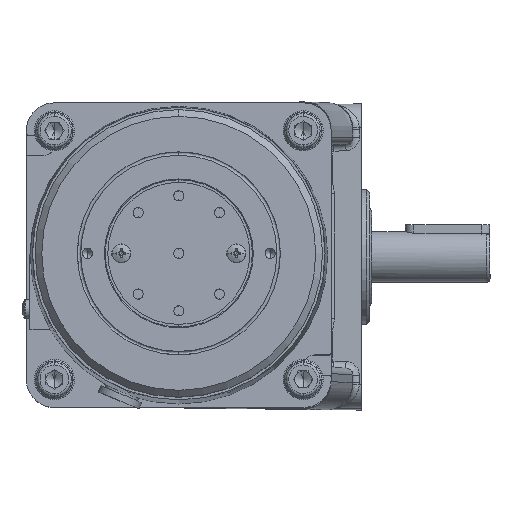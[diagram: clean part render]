
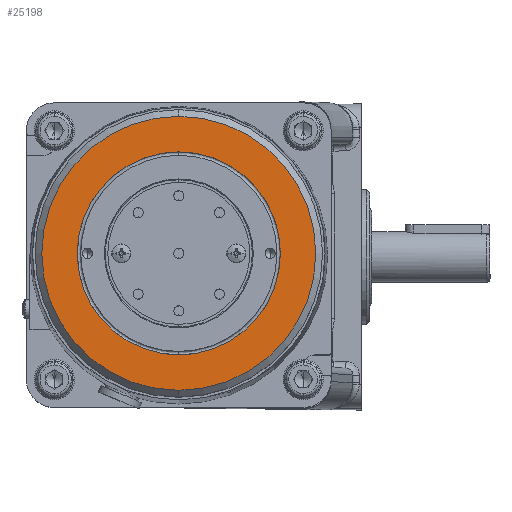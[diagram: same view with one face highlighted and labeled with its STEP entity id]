
A CAD part, front view. The second image highlights one B-rep face of the part: STEP entity #25198.
In plain terms, the highlighted planar face has unit normal (0, -1, 0.005) as drawn and (-1, 0, 0) by its records, which use the part's own axes.
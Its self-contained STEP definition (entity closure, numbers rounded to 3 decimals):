
#588 = EDGE_CURVE ( 'NONE', #71042, #40257, #25965, .T. ) ;
#843 = DIRECTION ( 'NONE',  ( 1., 0., 0. ) ) ;
#1355 = DIRECTION ( 'NONE',  ( 0., 0., -1. ) ) ;
#1457 = CIRCLE ( 'NONE', #40722, 30. ) ;
#1803 = EDGE_LOOP ( 'NONE', ( #60729, #74217 ) ) ;
#8358 = DIRECTION ( 'NONE',  ( 1., 0., 0. ) ) ;
#9166 = DIRECTION ( 'NONE',  ( 1., 0., 0. ) ) ;
#9543 = PLANE ( 'NONE',  #64972 ) ;
#10225 = CARTESIAN_POINT ( 'NONE',  ( -103.202, 12.73, 273.5 ) ) ;
#10834 = EDGE_CURVE ( 'NONE', #36249, #48325, #13071, .T. ) ;
#11348 = ORIENTED_EDGE ( 'NONE', *, *, #25797, .F. ) ;
#13071 = CIRCLE ( 'NONE', #30817, 30. ) ;
#22285 = FACE_BOUND ( 'NONE', #1803, .T. ) ;
#22743 = CARTESIAN_POINT ( 'NONE',  ( -103.202, 12.73, 213.5 ) ) ;
#22921 = CARTESIAN_POINT ( 'NONE',  ( -103.202, 12.73, 213.5 ) ) ;
#23580 = FACE_OUTER_BOUND ( 'NONE', #73853, .T. ) ;
#25198 = ADVANCED_FACE ( 'NONE', ( #22285, #23580 ), #9543, .T. ) ;
#25797 = EDGE_CURVE ( 'NONE', #40257, #71042, #37658, .T. ) ;
#25965 = CIRCLE ( 'NONE', #64632, 40.5 ) ;
#26169 = AXIS2_PLACEMENT_3D ( 'NONE', #48886, #9166, #55569 ) ;
#30817 = AXIS2_PLACEMENT_3D ( 'NONE', #48071, #8358, #54756 ) ;
#36169 = DIRECTION ( 'NONE',  ( 0., 0., 1. ) ) ;
#36249 = VERTEX_POINT ( 'NONE', #10225 ) ;
#37658 = CIRCLE ( 'NONE', #26169, 40.5 ) ;
#40257 = VERTEX_POINT ( 'NONE', #57498 ) ;
#40430 = CARTESIAN_POINT ( 'NONE',  ( -103.202, 12.73, 243.5 ) ) ;
#40722 = AXIS2_PLACEMENT_3D ( 'NONE', #40430, #843, #47127 ) ;
#40962 = DIRECTION ( 'NONE',  ( 1., 0., 0. ) ) ;
#47127 = DIRECTION ( 'NONE',  ( 0., 0., 1. ) ) ;
#48071 = CARTESIAN_POINT ( 'NONE',  ( -103.202, 12.73, 243.5 ) ) ;
#48325 = VERTEX_POINT ( 'NONE', #22743 ) ;
#48886 = CARTESIAN_POINT ( 'NONE',  ( -103.202, 12.73, 243.5 ) ) ;
#50513 = ORIENTED_EDGE ( 'NONE', *, *, #588, .F. ) ;
#54756 = DIRECTION ( 'NONE',  ( 0., 0., 1. ) ) ;
#55569 = DIRECTION ( 'NONE',  ( 0., 0., -1. ) ) ;
#57498 = CARTESIAN_POINT ( 'NONE',  ( -103.202, 12.73, 203. ) ) ;
#60729 = ORIENTED_EDGE ( 'NONE', *, *, #10834, .T. ) ;
#62185 = CARTESIAN_POINT ( 'NONE',  ( -103.202, 12.73, 284. ) ) ;
#64632 = AXIS2_PLACEMENT_3D ( 'NONE', #80381, #40962, #1355 ) ;
#64972 = AXIS2_PLACEMENT_3D ( 'NONE', #22921, #75665, #36169 ) ;
#71042 = VERTEX_POINT ( 'NONE', #62185 ) ;
#73853 = EDGE_LOOP ( 'NONE', ( #11348, #50513 ) ) ;
#74217 = ORIENTED_EDGE ( 'NONE', *, *, #78645, .T. ) ;
#75665 = DIRECTION ( 'NONE',  ( -1., 0., 0. ) ) ;
#78645 = EDGE_CURVE ( 'NONE', #48325, #36249, #1457, .T. ) ;
#80381 = CARTESIAN_POINT ( 'NONE',  ( -103.202, 12.73, 243.5 ) ) ;
